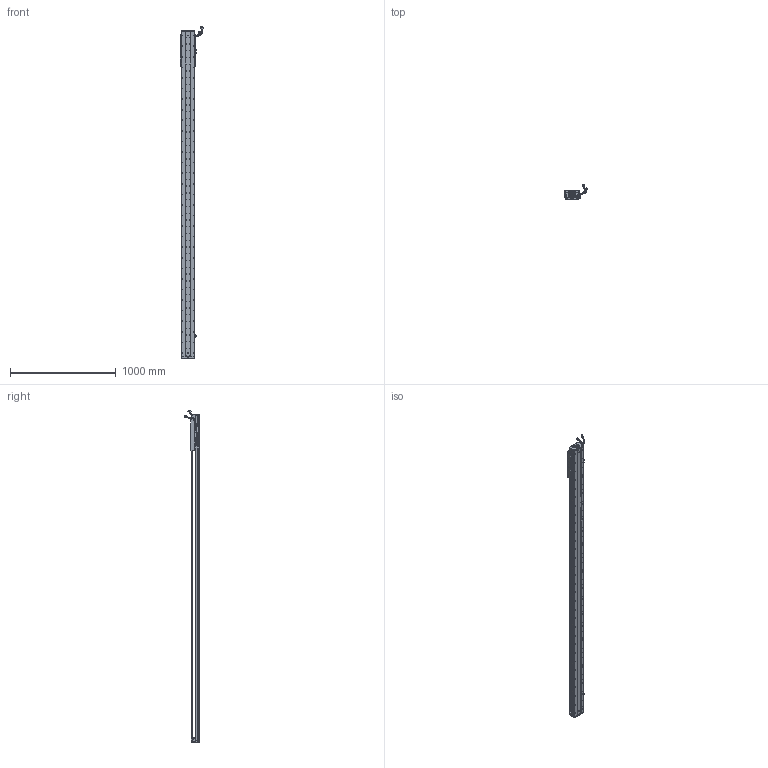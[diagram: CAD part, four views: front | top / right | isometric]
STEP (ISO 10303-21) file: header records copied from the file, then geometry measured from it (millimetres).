
FILE_DESCRIPTION (( 'STEP AP203' ), '1' );
FILE_NAME ('Z4-RY120D-1-L500-B-K.SLDASM_2700.step', '2021-05-17T06:11:19', ( '盈信电脑' ), ( '东莞市道滘镇水果街19号' ), 'SwSTEP 2.0', 'SolidWorks 2016', '' );
FILE_SCHEMA (( 'CONFIG_CONTROL_DESIGN' ));
Length unit declared in the file: millimetre
Products named in the file (37): Z-RY120D詩湍狟揤裔; RY100FB-遵嫖萇覜茼え; HARNESS; SCREW-M1.6-1; SHIELDPLATE; SCREW-M1.6-3; Z4-RY120-L500詩湍100mm遵_2700; SCREW-M1.7; PBU_SHEET; SEAL; 140蚥薯蝶輸; 覜茼ん672; COVER-Part-1; SCALE; PSLH080_PSLF2; LABEL; SEAL-Part-1; 140雄赽晤鎢ん堤盄; Z-120詩湍傷裔啣; SCREW-M1.6-2; Z-RY120D詩湍奻揤裔; HOLDER0; SCALE-Part-2; SCREW-M1.6; 080黍杅芛假蚾釱21遴; HARNESS-Part-1; HARNESS-Part-2; 榋妏寠巭燃_暯_M2_2; Z4-RY120铝滑块（21款）; 120-Z-臏賑輸盄裔(21遴); SCREW-M1.7-1; Z4-RY120D-1-L500-B-K.SLDASM_2700; COVER; SCALE-Part-1; 672嫖萇羲壽假蚾釱; LABEL-Part-1; Z4-RY120-500-倰第菁釱_2700
Assembly tree (43 placements, depth 4):
  Z4-RY120D-1-L500-B-K.SLDASM_2700
    Z4-RY120-500-倰第菁釱_2700
    覜茼ん672  x3
    672嫖萇羲壽假蚾釱  x2
    Z4-RY120铝滑块（21款）
    PSLH080_PSLF2
      SCALE
        SCALE-Part-1
        SCALE-Part-2
      HARNESS
        HARNESS-Part-1
        HARNESS-Part-2
      LABEL
        LABEL-Part-1
      COVER
        COVER-Part-1
      SEAL
        SEAL-Part-1
      榋妏寠巭燃_暯_M2_2
      SHIELDPLATE
      SCREW-M1.7
      SCREW-M1.7-1
      PBU_SHEET
      SCREW-M1.6
      SCREW-M1.6-1
      SCREW-M1.6-2
      SCREW-M1.6-3
      HOLDER0
    080黍杅芛假蚾釱21遴
    120-Z-臏賑輸盄裔(21遴)
    140雄赽晤鎢ん堤盄
    140蚥薯蝶輸  x2
    RY100FB-遵嫖萇覜茼え
    Z-120詩湍傷裔啣  x2
    Z-RY120D詩湍奻揤裔  x2
    Z-RY120D詩湍狟揤裔  x2
    Z4-RY120-L500詩湍100mm遵_2700
Bounding box: 222.83 x 140.94 x 3138.99 mm (x, y, z)
Volume: 7388714.9 mm3; surface area: 2565015.4 mm2
Topology: 38 solids, 38 shells, 3975 faces, 11440 edges, 7218 vertices
Faces by surface type: cylinder 2148, plane 1289, cone 416, torus 69, bspline 53
Entity records: 136479 total; most frequent: CARTESIAN_POINT 42794, ORIENTED_EDGE 19576, DIRECTION 17716, EDGE_CURVE 9788, AXIS2_PLACEMENT_3D 6572, VERTEX_POINT 6338, LINE 4572, VECTOR 4572
